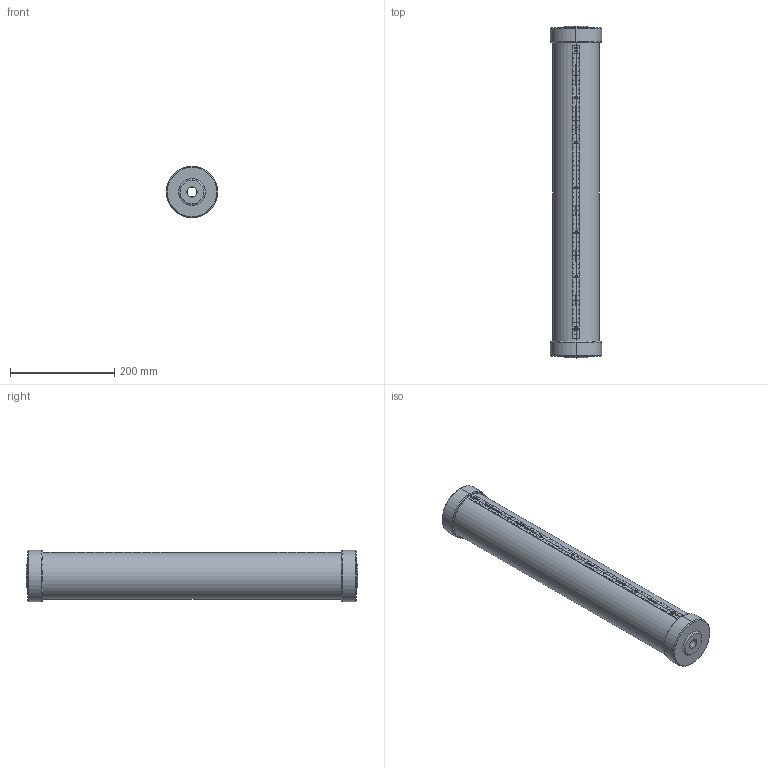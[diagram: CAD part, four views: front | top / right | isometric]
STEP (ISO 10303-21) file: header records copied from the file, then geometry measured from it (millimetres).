
FILE_DESCRIPTION (( 'STEP AP214' ), '1' );
FILE_NAME ('3.0LTR-C-11-00 (assembly part 2).STEP', '2025-06-03T08:51:46', ( '' ), ( '' ), 'SwSTEP 2.0', 'SolidWorks 2024', '' );
FILE_SCHEMA (( 'AUTOMOTIVE_DESIGN' ));
Length unit declared in the file: millimetre
Products named in the file (1): 3.0LTR-C-11-00 (assembly part 2)
Bounding box: 99 x 636 x 99 mm (x, y, z)
Volume: 567592.3 mm3; surface area: 410742.5 mm2
Topology: 4 solids, 4 shells, 1831 faces, 5042 edges, 3356 vertices
Faces by surface type: plane 1106, bspline 527, cylinder 178, cone 16, torus 4
Entity records: 107197 total; most frequent: CARTESIAN_POINT 43581, ORIENTED_EDGE 10084, DIRECTION 6982, EDGE_CURVE 5042, VECTOR 3604, LINE 3604, VERTEX_POINT 3356, EDGE_LOOP 1974
